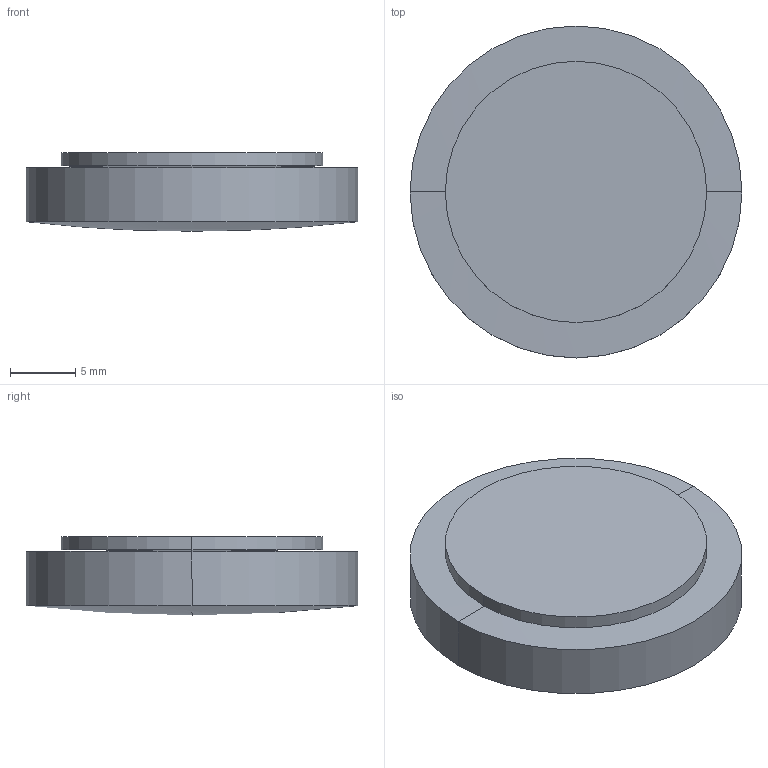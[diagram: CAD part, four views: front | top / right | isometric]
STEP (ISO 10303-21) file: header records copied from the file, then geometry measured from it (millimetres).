
FILE_DESCRIPTION(('STEP AP214'),'1');
FILE_NAME('LLU-25190.STEP','2020-03-09T17:42:09',(' '),(' '),'Spatial InterOp 3D',' ',' ');
FILE_SCHEMA(('AUTOMOTIVE_DESIGN { 1 0 10303 214 1 1 1 1 }'));
Length unit declared in the file: millimetre
Products named in the file (1): 1
Bounding box: 25.4 x 25.4 x 6 mm (x, y, z)
Volume: 2625.6 mm3; surface area: 2035.3 mm2
Topology: 2 solids, 2 shells, 10 faces, 20 edges, 10 vertices
Faces by surface type: sphere 4, cylinder 4, plane 2
Entity records: 255 total; most frequent: DIRECTION 52, CARTESIAN_POINT 38, ORIENTED_EDGE 32, AXIS2_PLACEMENT_3D 24, EDGE_CURVE 16, CIRCLE 12, ADVANCED_FACE 10, FACE_OUTER_BOUND 10
